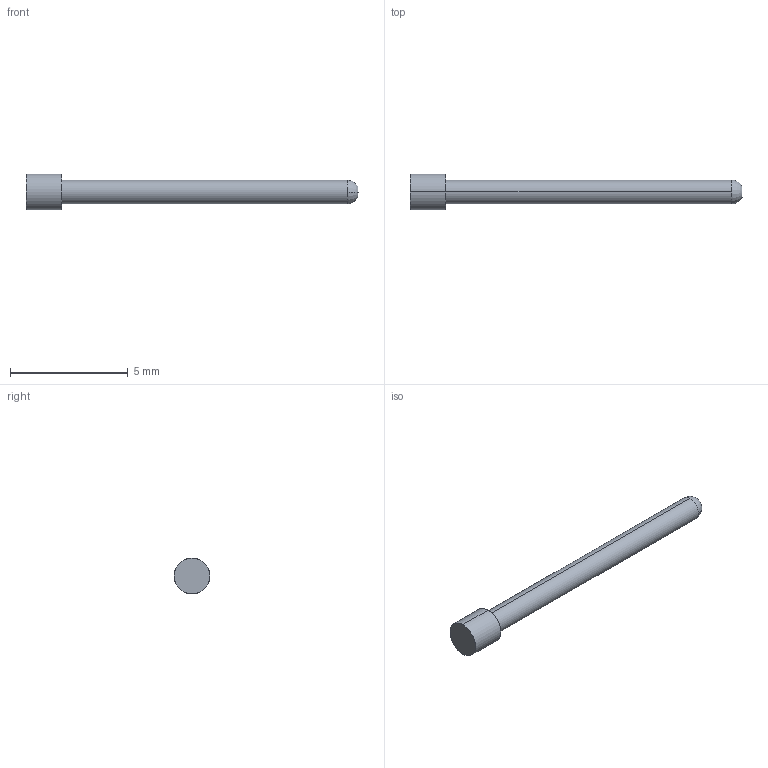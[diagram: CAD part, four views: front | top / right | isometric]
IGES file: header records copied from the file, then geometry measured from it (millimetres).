
Start section: SolidWorks IGES file using analytic representation for surfaces
Global section: file name: Z:\probe solid model mockups\Solidworks models\IGES Files\HPA-1\HPA-1F Full.IGS; native system: SolidWorks 2006 by SolidWorks Corporation; preprocessor: SolidWorks 2006 by SolidWorks Corporation; author: tsakatani; date: 071220.112219; units: inch
Bounding box: 14.1 x 1.52 x 1.52 mm (x, y, z)
Surface area: 50.4 mm2 (no closed solid volume)
Topology: 0 solids, 0 shells, 9 faces, 92 edges, 92 vertices
Faces by surface type: revolution 6, bspline 3
